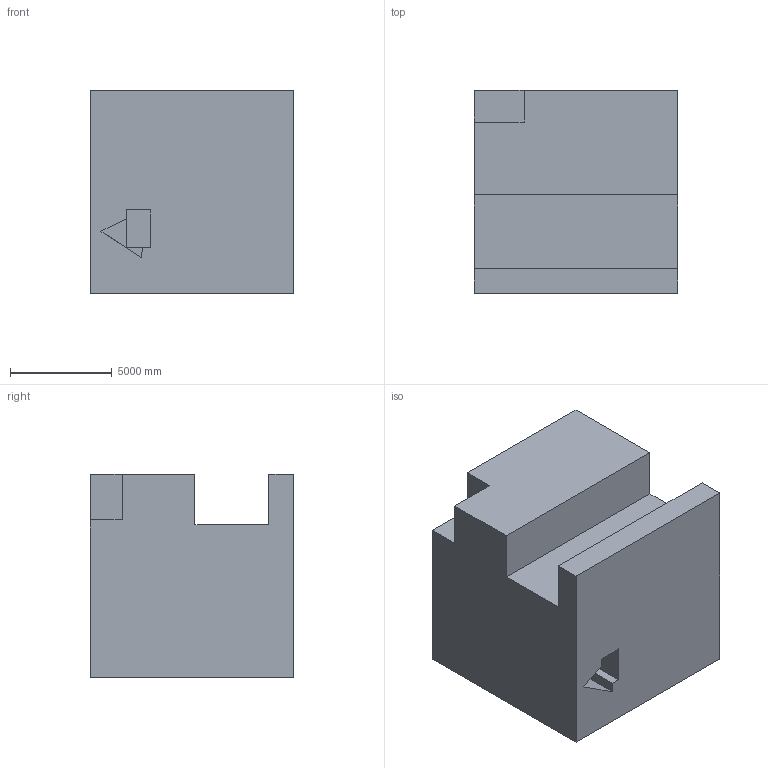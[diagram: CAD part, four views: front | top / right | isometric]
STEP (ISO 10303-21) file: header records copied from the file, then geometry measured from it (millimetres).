
FILE_DESCRIPTION (( 'STEP AP203' ), '1' );
FILE_NAME ('32.STEP', '2022-09-01T11:40:55', ( 'user' ), ( '' ), 'SwSTEP 2.0', 'SolidWorks 2021', '' );
FILE_SCHEMA (( 'CONFIG_CONTROL_DESIGN' ));
Length unit declared in the file: centimetre
Products named in the file (1): 32
Bounding box: 10000 x 10000 x 10000 mm (x, y, z)
Volume: 889971951553.9 mm3; surface area: 660529298.3 mm2
Topology: 1 solids, 1 shells, 26 faces, 67 edges, 44 vertices
Faces by surface type: plane 26
Entity records: 852 total; most frequent: CARTESIAN_POINT 138, ORIENTED_EDGE 134, DIRECTION 121, LINE 67, VECTOR 67, EDGE_CURVE 67, VERTEX_POINT 44, EDGE_LOOP 27
